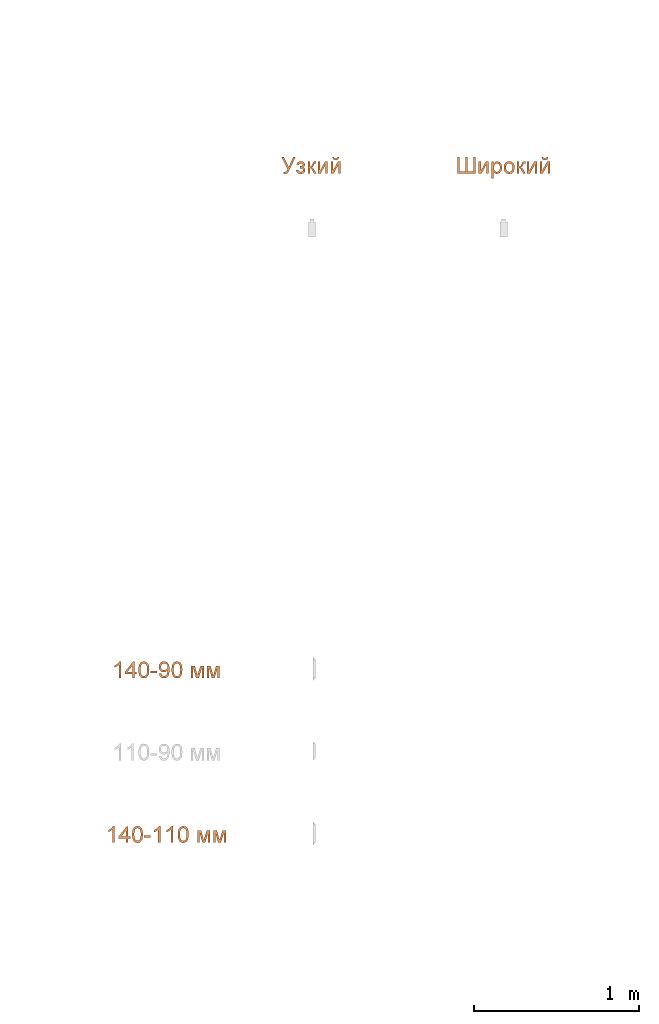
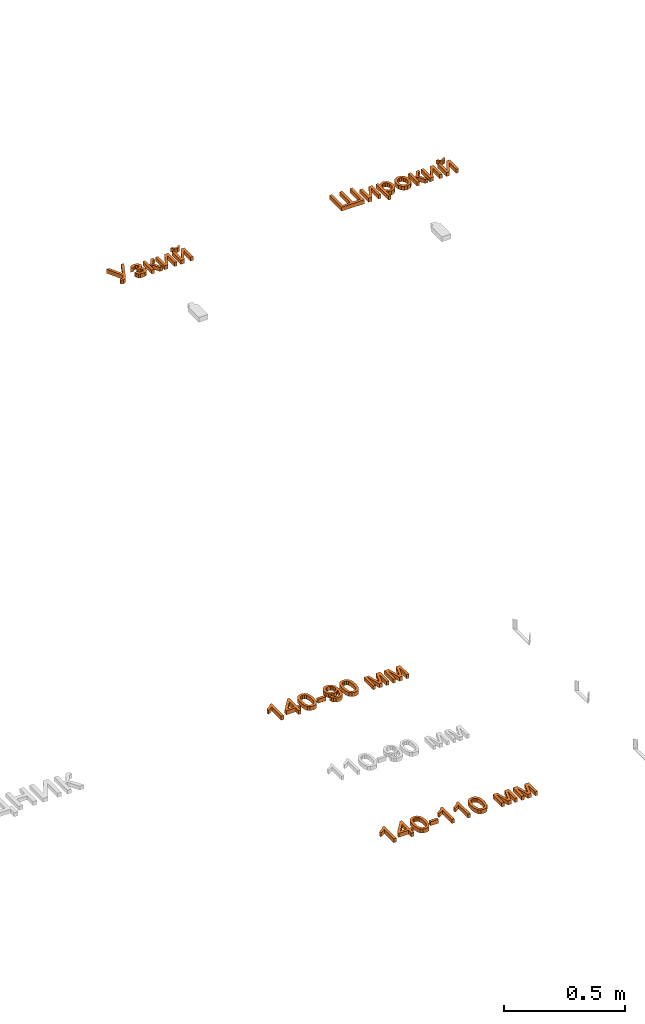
# One storey, part 35 of 87: 4 proxies.
"""IFC2X3 building model written with IfcOpenShell, lengths in millimetres."""

from ifc_helpers import new_model, entity, si_unit, converted_unit, derived_unit, direction, frame, frame_2d, origin, place, context, subcontext, project, spatial, polyline, rectangle, outline, extrude, element, save


model = new_model("IFC2X3")

# Units and contexts
model_context = context("Model", 3, precision=0.01, world=origin(), true_north=direction((6.12303176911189e-17, 1.0)))
body_context = subcontext(model_context, "Body", "Model", "MODEL_VIEW")
ifc_project = project(units=[si_unit("LENGTHUNIT", "METRE", prefix="MILLI"), si_unit("AREAUNIT", "SQUARE_METRE"), si_unit("VOLUMEUNIT", "CUBIC_METRE"), converted_unit("PLANEANGLEUNIT", "DEGREE", entity("IfcRatioMeasure", 0.0174532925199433), si_unit("PLANEANGLEUNIT", "RADIAN"), dimensions=[0, 0, 0, 0, 0, 0, 0]), si_unit("MASSUNIT", "GRAM", prefix="KILO"), derived_unit("MASSDENSITYUNIT", [(si_unit("MASSUNIT", "GRAM", prefix="KILO"), 1), (si_unit("LENGTHUNIT", "METRE"), -3)]), si_unit("TIMEUNIT", "SECOND"), si_unit("FREQUENCYUNIT", "HERTZ"), si_unit("THERMODYNAMICTEMPERATUREUNIT", "DEGREE_CELSIUS"), derived_unit("THERMALTRANSMITTANCEUNIT", [(si_unit("MASSUNIT", "GRAM", prefix="KILO"), 1), (si_unit("THERMODYNAMICTEMPERATUREUNIT", "KELVIN"), -1), (si_unit("TIMEUNIT", "SECOND"), -3)]), derived_unit("VOLUMETRICFLOWRATEUNIT", [(si_unit("LENGTHUNIT", "METRE"), 3), (si_unit("TIMEUNIT", "SECOND"), -1)]), si_unit("ELECTRICCURRENTUNIT", "AMPERE"), si_unit("ELECTRICVOLTAGEUNIT", "VOLT"), si_unit("POWERUNIT", "WATT"), si_unit("FORCEUNIT", "NEWTON", prefix="KILO"), si_unit("ILLUMINANCEUNIT", "LUX"), si_unit("LUMINOUSFLUXUNIT", "LUMEN"), si_unit("LUMINOUSINTENSITYUNIT", "CANDELA"), derived_unit("USERDEFINED", [(si_unit("MASSUNIT", "GRAM", prefix="KILO"), -1), (si_unit("LENGTHUNIT", "METRE"), -2), (si_unit("TIMEUNIT", "SECOND"), 3), (si_unit("LUMINOUSFLUXUNIT", "LUMEN"), 1)]), derived_unit("LINEARVELOCITYUNIT", [(si_unit("LENGTHUNIT", "METRE"), 1), (si_unit("TIMEUNIT", "SECOND"), -1)]), si_unit("PRESSUREUNIT", "PASCAL"), derived_unit("USERDEFINED", [(si_unit("LENGTHUNIT", "METRE"), -2), (si_unit("MASSUNIT", "GRAM", prefix="KILO"), 1), (si_unit("TIMEUNIT", "SECOND"), -2)])], contexts=[model_context])

# Site, building, storey
site_placement = place(None, origin())
site = spatial("IfcSite", under=ifc_project, at=site_placement, Name="Default", CompositionType="ELEMENT")
building_placement = place(site_placement, origin())
building = spatial("IfcBuilding", under=site, at=building_placement, Name="Наименование здания", CompositionType="ELEMENT")
storey_placement = place(building_placement, origin())
storey = spatial("IfcBuildingStorey", under=building, at=storey_placement, Name="Этаж 01", CompositionType="ELEMENT", Elevation=0.0)

# Proxies
proxy_1_placement = place(storey_placement, origin())
element("IfcBuildingElementProxy", 1, at=proxy_1_placement, inside=storey, Name="Текст модели:100 мм Arial", ObjectType="Текст модели:100 мм Arial", context=body_context, shape_type="SweptSolid", body=[
    extrude(outline(polyline([(-68.5922278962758, 3.17852468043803), (-62.3223065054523, -9.23369658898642), (4.33148979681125, -9.22336459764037), (-36.5901952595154, -60.1741531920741), (-30.3755641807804, -72.4769192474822), (22.283466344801, -3.15007051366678), (34.7684834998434, 14.7793615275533), (33.5878628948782, 27.179566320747), (27.0890693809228, 36.5636210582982), (17.2818822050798, 31.6096090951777), (21.7382813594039, 22.7875188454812), (22.5490631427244, 14.9814779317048), (14.2506952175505, 3.17852468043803), (-68.5922278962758, 3.17852468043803)])), frame((12799.6303348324, -26104.271931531, 0.0), z_axis=(0.0, 0.0, -1.0), x_axis=(0.450880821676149, -0.892584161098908, 0.0)), (0.0, 0.0, -1.0), 20.0),
    extrude(outline(polyline([(-8.26137559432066, 2.83660129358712), (-7.88483383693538, -9.7147906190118), (2.03370750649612, -9.90796438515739), (7.11297634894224, -12.3687236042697), (9.62999620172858, -17.7525843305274), (6.67000046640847, -24.1840695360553), (-1.385566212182, -26.793508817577), (-9.85236257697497, -24.6920086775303), (-15.4941151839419, -17.7947491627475), (-29.5673633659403, -19.7872826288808), (-19.6703947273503, -34.8011497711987), (-2.28377519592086, -39.3831432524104), (8.16179590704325, -37.5147754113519), (15.9646493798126, -32.6156876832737), (20.7610522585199, -25.6475814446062), (22.1872715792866, -17.5721580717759), (19.5816320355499, -9.84772015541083), (12.2854000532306, -4.03062803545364), (20.3489339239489, 4.03842158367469), (22.7692443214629, 15.3732845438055), (20.7423600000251, 24.5596715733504), (15.2735873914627, 31.722820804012), (6.73732323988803, 36.2421492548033), (-4.49203571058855, 37.4970739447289), (-15.3844130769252, 35.6981126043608), (-23.62065115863, 31.0344554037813), (-29.2007499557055, 23.506102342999), (-32.1247094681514, 13.1130534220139), (-17.9573258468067, 11.9677389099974), (-12.5724845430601, 21.4040812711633), (-2.91428652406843, 24.9817182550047), (6.34861619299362, 22.1066650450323), (10.2428571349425, 14.1632519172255), (8.17310319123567, 7.50084071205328), (3.44966140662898, 3.82588141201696), (-5.80772556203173, 2.83660129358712), (-8.26137559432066, 2.83660129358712)])), frame((12886.2674486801, -26108.8917590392, 0.0), z_axis=(0.0, 0.0, -1.0), x_axis=(0.999550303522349, 0.029986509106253, 0.0)), (0.0, 0.0, -1.0), 20.0),
    extrude(outline(polyline([(-30.3295712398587, -29.5353037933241), (43.4430315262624, -29.5353037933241), (43.4430315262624, -16.9782650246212), (8.91117491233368, -16.9782650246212), (11.2288314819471, -10.2337617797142), (20.8060260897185, -3.61188586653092), (43.4430315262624, 9.55828956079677), (43.4430315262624, 23.8321109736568), (20.3155167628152, 10.3921554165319), (10.0209522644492, 2.61758258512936), (5.13425309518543, -5.3041430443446), (0.75645735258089, 1.79597946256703), (-8.18307513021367, 6.86048826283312), (-16.4481572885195, 11.1769703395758), (-17.7725324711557, 17.3083369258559), (-17.6989560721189, 20.6928512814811), (-30.3295712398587, 20.6928512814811), (-30.3295712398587, 18.2893555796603), (-29.3730780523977, 9.1045684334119), (-25.6819953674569, 4.05232236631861), (-14.3389671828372, -1.67437402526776), (-1.1933172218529, -8.56603006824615), (1.06302568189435, -16.9782650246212), (-30.3295712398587, -16.9782650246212), (-30.3295712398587, -29.5353037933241)])), frame((12954.7190471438, -26101.4940097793, 0.0), z_axis=(0.0, 0.0, 1.0), x_axis=(0.0, -1.0, 0.0)), (0.0, 0.0, 1.0), 20.0),
    extrude(outline(polyline([(-36.9206370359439, -29.8425874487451), (36.8519657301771, -29.8425874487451), (36.8519657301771, -13.4105249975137), (-19.0660975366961, 17.2463079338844), (36.8519657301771, 17.2463079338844), (36.8519657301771, 29.8033467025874), (-36.9206370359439, 29.8033467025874), (-36.9206370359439, 13.5674879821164), (19.3407827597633, -17.2855486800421), (-36.9206370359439, -17.2855486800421), (-36.9206370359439, -29.8425874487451)])), frame((13016.2418947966, -26108.0850755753, 0.0), z_axis=(0.0, 0.0, 1.0), x_axis=(0.0, -1.0, 0.0)), (0.0, 0.0, 1.0), 20.0),
    extrude(outline(polyline([(-11.1429830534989, -6.65049913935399), (-15.3141401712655, -15.0941956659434), (-0.0922190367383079, -15.8161107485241), (10.2631635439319, -5.84547547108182), (12.416217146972, 9.42172447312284), (2.76087400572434, 21.4951559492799), (-1.41028311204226, 13.0514594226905), (3.3692997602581, 6.7512741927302), (2.31913688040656, -0.662833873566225), (-3.16906596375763, -6.65049913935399), (-11.1429830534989, -6.65049913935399)])), frame((13094.7932846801, -26051.5256713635, 0.0), z_axis=(0.0, 0.0, -1.0), x_axis=(-0.442902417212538, -0.896569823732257, 0.0)), (0.0, 0.0, -1.0), 20.0),
    extrude(outline(polyline([(-36.9206370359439, -29.8425874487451), (36.8519657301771, -29.8425874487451), (36.8519657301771, -13.4105249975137), (-19.0660975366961, 17.2463079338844), (36.8519657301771, 17.2463079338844), (36.8519657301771, 29.8033467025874), (-36.9206370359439, 29.8033467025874), (-36.9206370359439, 13.5674879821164), (19.3407827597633, -17.2855486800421), (-36.9206370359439, -17.2855486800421), (-36.9206370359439, -29.8425874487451)])), frame((13094.723387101, -26108.0850755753, 0.0), z_axis=(0.0, 0.0, 1.0), x_axis=(0.0, -1.0, 0.0)), (0.0, 0.0, 1.0), 20.0),
])
proxy_2_placement = place(storey_placement, origin())
element("IfcBuildingElementProxy", 2, at=proxy_2_placement, inside=storey, Name="Текст модели:100 мм Arial", ObjectType="Текст модели:100 мм Arial", context=body_context, shape_type="SweptSolid", body=[
    extrude(outline(polyline([(-46.0424754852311, -54.9370446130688), (54.4138346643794, -54.9370446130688), (54.4138346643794, 54.9370446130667), (-46.0424754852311, 54.9370446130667), (-46.0424754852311, 42.3800058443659), (41.8567958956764, 42.3800058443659), (41.8567958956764, 6.2785193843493), (-46.0424754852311, 6.2785193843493), (-46.0424754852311, -6.27851938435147), (41.8567958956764, -6.27851938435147), (41.8567958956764, -42.3800058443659), (-46.0424754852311, -42.3800058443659), (-46.0424754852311, -54.9370446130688)])), frame((13889.521065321, -26090.5232066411, 0.0), z_axis=(0.0, 0.0, 1.0), x_axis=(0.0, -1.0, 0.0)), (0.0, 0.0, 1.0), 20.0),
    extrude(outline(polyline([(-36.9206370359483, -29.8425874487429), (36.8519657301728, -29.8425874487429), (36.8519657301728, -13.4105249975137), (-19.0660975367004, 17.2463079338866), (36.8519657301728, 17.2463079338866), (36.8519657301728, 29.8033467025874), (-36.9206370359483, 29.8033467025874), (-36.9206370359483, 13.5674879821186), (19.340782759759, -17.2855486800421), (-36.9206370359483, -17.2855486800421), (-36.9206370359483, -29.8425874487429)])), frame((13993.1362555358, -26108.0850755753, 0.0), z_axis=(0.0, 0.0, 1.0), x_axis=(0.0, -1.0, 0.0)), (0.0, 0.0, 1.0), 20.0),
    extrude(outline(polyline([(-28.8983569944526, -61.2335493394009), (-16.3413182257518, -61.2335493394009), (-16.3413182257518, -23.1700255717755), (-8.38280439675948, -31.3247431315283), (2.54329085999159, -34.5498419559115), (18.4235303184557, -29.7305878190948), (29.9259740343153, -15.8736993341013), (33.8868368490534, 4.47017499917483), (30.3796951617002, 23.8207679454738), (19.9808974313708, 37.5059781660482), (4.06386977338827, 42.3620205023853), (-7.65930313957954, 38.8916670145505), (-16.3413182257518, 28.4806065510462), (-16.3413182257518, 40.7923906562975), (-28.8983569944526, 40.7923906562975), (-28.8983569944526, -61.2335493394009)]), holes=[polyline([(-16.3413182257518, 3.31747808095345), (-14.8912500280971, 14.7064915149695), (-10.5410454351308, 23.023690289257), (-4.30851130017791, 28.1096588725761), (2.78854552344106, 29.8049817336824), (9.85801119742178, 28.2108264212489), (15.8606190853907, 23.4283604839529), (19.9625033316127, 15.4453211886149), (21.3297980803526, 4.24944580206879), (19.928780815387, -7.4308075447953), (15.7257290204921, -15.5916564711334), (9.56063991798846, -20.3925165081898), (2.27351073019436, -21.9928031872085), (-4.89712249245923, -20.4476988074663), (-10.9089274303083, -15.8123856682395), (-14.9832205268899, -7.93971097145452), (-16.3413182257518, 3.31747808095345)])]), frame((14070.6735173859, -26111.9568291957, 0.0)), (0.0, 0.0, 1.0), 20.0),
    extrude(outline(polyline([(-2.34029740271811, -31.6984909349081), (14.2731811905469, -31.6984909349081), (27.1869525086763, -26.5873672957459), (35.990959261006, -17.1811275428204), (40.275144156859, -4.29577920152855), (38.1491713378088, 13.1690451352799), (27.2514955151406, 26.6485362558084), (5.67797919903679, 33.7446283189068), (-10.128054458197, 33.6081083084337), (-22.8059382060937, 28.390056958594), (-31.6389568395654, 18.975453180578), (-35.9103951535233, 6.24927588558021), (-35.5406401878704, -5.97109031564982), (-30.8535887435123, -16.7835237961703), (-19.5870121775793, -26.5692340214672), (-2.34029740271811, -31.6984909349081)]), holes=[polyline([(-0.642949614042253, -19.2566729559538), (-11.69480974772, -16.2599663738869), (-19.0989004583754, -10.8341828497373), (-22.9822632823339, -3.67356758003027), (-23.4719397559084, 4.52763423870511), (-20.7783225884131, 12.2046648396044), (-15.0781786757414, 18.0357050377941), (-6.5660093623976, 21.2863283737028), (4.56368400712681, 21.2221083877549), (15.8675929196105, 18.1905150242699), (23.3961896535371, 12.7474982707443), (27.3267847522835, 5.59272509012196), (27.8366887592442, -2.57413755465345), (25.1317228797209, -10.3331599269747), (19.4311586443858, -16.1672368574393), (10.8134498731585, -19.3753979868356), (-0.642949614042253, -19.2566729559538)])]), frame((14147.267775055, -26106.0228926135, 0.0), z_axis=(0.0, 0.0, 1.0), x_axis=(0.13710570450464, -0.99055642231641, 0.0)), (0.0, 0.0, 1.0), 20.0),
    extrude(outline(polyline([(-30.3295712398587, -29.5353037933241), (43.4430315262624, -29.5353037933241), (43.4430315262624, -16.9782650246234), (8.91117491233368, -16.9782650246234), (11.2288314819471, -10.2337617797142), (20.8060260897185, -3.61188586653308), (43.4430315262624, 9.55828956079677), (43.4430315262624, 23.8321109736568), (20.3155167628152, 10.3921554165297), (10.0209522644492, 2.61758258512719), (5.13425309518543, -5.30414304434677), (0.75645735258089, 1.79597946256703), (-8.18307513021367, 6.86048826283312), (-16.4481572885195, 11.1769703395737), (-17.7725324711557, 17.3083369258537), (-17.6989560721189, 20.6928512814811), (-30.3295712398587, 20.6928512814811), (-30.3295712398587, 18.2893555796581), (-29.3730780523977, 9.1045684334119), (-25.6819953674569, 4.05232236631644), (-14.3389671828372, -1.67437402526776), (-1.1933172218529, -8.56603006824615), (1.06302568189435, -16.9782650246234), (-30.3295712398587, -16.9782650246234), (-30.3295712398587, -29.5353037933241)])), frame((14225.1341891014, -26101.4940097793, 0.0), z_axis=(0.0, 0.0, 1.0), x_axis=(0.0, -1.0, 0.0)), (0.0, 0.0, 1.0), 20.0),
    extrude(outline(polyline([(-36.9206370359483, -29.8425874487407), (36.8519657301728, -29.8425874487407), (36.8519657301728, -13.4105249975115), (-19.0660975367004, 17.2463079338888), (36.8519657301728, 17.2463079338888), (36.8519657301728, 29.8033467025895), (-36.9206370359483, 29.8033467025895), (-36.9206370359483, 13.5674879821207), (19.340782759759, -17.28554868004), (-36.9206370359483, -17.28554868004), (-36.9206370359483, -29.8425874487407)])), frame((14286.6570367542, -26108.0850755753, 0.0), z_axis=(0.0, 0.0, 1.0), x_axis=(0.0, -1.0, 0.0)), (0.0, 0.0, 1.0), 20.0),
    extrude(outline(polyline([(-11.1429830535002, -6.65049913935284), (-15.3141401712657, -15.0941956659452), (-0.0922190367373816, -15.8161107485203), (10.2631635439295, -5.84547547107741), (12.4162171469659, 9.42172447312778), (2.76087400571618, 21.4951559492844), (-1.41028311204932, 13.0514594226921), (3.36929976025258, 6.75127419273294), (2.31913688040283, -0.662833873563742), (-3.1690659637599, -6.65049913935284), (-11.1429830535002, -6.65049913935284)])), frame((14365.2084266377, -26051.5256713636, 0.0), z_axis=(0.0, 0.0, -1.0), x_axis=(-0.442902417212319, -0.896569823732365, 0.0)), (0.0, 0.0, -1.0), 20.0),
    extrude(outline(polyline([(-36.9206370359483, -29.8425874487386), (36.8519657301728, -29.8425874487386), (36.8519657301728, -13.4105249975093), (-19.0660975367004, 17.2463079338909), (36.8519657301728, 17.2463079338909), (36.8519657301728, 29.8033467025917), (-36.9206370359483, 29.8033467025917), (-36.9206370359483, 13.5674879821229), (19.340782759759, -17.2855486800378), (-36.9206370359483, -17.2855486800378), (-36.9206370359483, -29.8425874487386)])), frame((14365.1385290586, -26108.0850755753, 0.0), z_axis=(0.0, 0.0, 1.0), x_axis=(0.0, -1.0, 0.0)), (0.0, 0.0, 1.0), 20.0),
])
proxy_3_placement = place(storey_placement, origin())
element("IfcBuildingElementProxy", 3, at=proxy_3_placement, inside=storey, Name="Текст модели:100 мм Arial", ObjectType="Текст модели:100 мм Arial", context=body_context, shape_type="SweptSolid", body=[
    extrude(outline(polyline([(-63.8793021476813, -16.918484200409), (36.5770080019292, -16.918484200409), (36.5770080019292, -8.825080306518), (23.2106288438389, 2.34626961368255), (11.4629304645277, 20.7526321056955), (-0.407395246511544, 20.7526321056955), (5.93243780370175, 7.53340574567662), (14.4059864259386, -4.36144543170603), (-63.8793021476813, -4.36144543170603), (-63.8793021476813, -16.918484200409)])), frame((11773.3178787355, -29142.5695836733, 0.0), z_axis=(0.0, 0.0, 1.0), x_axis=(0.0, 1.0, 0.0)), (0.0, 0.0, 1.0), 20.0),
    extrude(outline(polyline([(-1.14154897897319, -36.3868737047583), (11.4154897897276, -36.3868737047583), (11.4154897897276, -12.8424260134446), (23.9725285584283, -12.8424260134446), (23.9725285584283, -0.285387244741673), (11.4154897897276, -0.285387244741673), (11.4154897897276, 62.4998065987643), (1.99771071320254, 62.4998065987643), (-46.6608145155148, -0.285387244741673), (-46.6608145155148, -12.8424260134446), (-1.14154897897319, -12.8424260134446), (-1.14154897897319, -36.3868737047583)]), holes=[polyline([(-1.14154897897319, -0.285387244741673), (-31.20977071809, -0.285387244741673), (-1.14154897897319, 38.5139005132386), (-1.14154897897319, -0.285387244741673)])]), frame((11862.0112549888, -29170.0620121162, 0.0)), (0.0, 0.0, 1.0), 20.0),
    extrude(outline(polyline([(-7.02884310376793, -33.3490673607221), (17.5323805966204, -33.3490673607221), (35.1984171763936, -27.6137612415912), (43.343984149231, -18.4876517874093), (47.0516941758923, -5.75150665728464), (46.7162020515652, 4.48638208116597), (43.446577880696, 13.0955287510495), (27.9444305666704, 25.6659118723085), (-0.314338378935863, 32.2325535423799), (-24.0296505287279, 32.3678288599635), (-39.4143020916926, 28.026088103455), (-49.7293680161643, 18.9002174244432), (-54.4436715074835, 4.63998875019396), (-50.8676582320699, -14.1301059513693), (-35.4058547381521, -26.7333390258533), (-7.02884310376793, -33.3490673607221)]), holes=[polyline([(-5.77428774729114, -20.8548320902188), (-25.0157644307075, -17.3562860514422), (-36.7257089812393, -11.57179224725), (-41.0962588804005, -4.77599682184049), (-41.9669219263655, 3.21464792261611), (-39.2244253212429, 11.2791292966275), (-32.8654063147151, 17.2229259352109), (-20.9698370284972, 20.2947501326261), (-1.61768958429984, 19.7433141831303), (17.8514140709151, 16.270770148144), (28.7803640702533, 10.7141596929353), (33.5546988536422, 3.61815959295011), (34.5599568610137, -4.47255337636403), (31.9421230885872, -12.1923199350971), (25.8471825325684, -18.1754808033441), (14.025067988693, -21.4027476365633), (-5.77428774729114, -20.8548320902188)])]), frame((11930.8627300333, -29160.6257088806, 0.0), z_axis=(0.0, 0.0, 1.0), x_axis=(0.101851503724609, -0.994799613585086, 0.0)), (0.0, 0.0, 1.0), 20.0),
    extrude(rectangle(XDim=39.2407461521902, YDim=12.5570387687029, at=frame_2d((1.08357767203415e-12, 0.0), x_axis=(1.0, 0.0))), frame((11990.3641683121, -29170.3473993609, 0.0)), (0.0, 0.0, 1.0), 20.0),
    extrude(outline(polyline([(5.58296908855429, -31.7859506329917), (17.2387167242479, -31.7859506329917), (26.9216142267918, -28.1739915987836), (34.2072820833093, -21.2554963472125), (38.6713407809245, -11.335887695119), (39.9245387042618, -0.903731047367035), (37.9450282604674, 8.92661895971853), (32.7793953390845, 17.8190246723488), (24.4742258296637, 25.4373484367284), (-3.90517077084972, 37.365916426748), (-32.1440557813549, 40.561914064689), (-49.7769073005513, 32.5319597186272), (-59.468326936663, 16.6032994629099), (-60.4499889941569, 4.02951589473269), (-56.4016296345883, -7.53444362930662), (-47.8362588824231, -16.8026666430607), (-35.2668867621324, -22.4892406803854), (-21.9841856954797, -23.8222776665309), (-10.3310965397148, -20.2832716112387), (-1.40106329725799, -12.8047998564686), (3.71247002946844, -2.31943974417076), (3.739020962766, 11.9281903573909), (-2.85997612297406, 24.0883984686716), (-0.471643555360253, 23.5260231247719), (13.1334133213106, 18.0099957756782), (22.6158894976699, 11.2224941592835), (27.00798216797, 2.91452909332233), (26.6924060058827, -7.52395807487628), (20.3410079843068, -16.8945474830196), (7.30988926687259, -19.2495752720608), (5.58296908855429, -31.7859506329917)]), holes=[polyline([(-21.7672208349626, 29.1433710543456), (-13.9803799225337, 25.5922442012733), (-8.91107638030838, 19.8291378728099), (-7.47464573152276, 4.45415101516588), (-10.9717321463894, -3.43916536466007), (-16.5473789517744, -8.7331221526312), (-23.57581367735, -11.1761402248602), (-31.4312638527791, -10.5166404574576), (-39.4119601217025, -6.85973803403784), (-44.9206699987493, -0.817312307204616), (-47.5297596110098, 6.83624740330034), (-46.8115950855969, 15.3265517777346), (-43.3781823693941, 22.7799280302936), (-37.7148363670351, 27.7965691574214), (-30.3387761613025, 30.0324064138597), (-21.7672208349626, 29.1433710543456)])]), frame((12051.807001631, -29167.7314518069, 0.0), z_axis=(0.0, 0.0, 1.0), x_axis=(0.258284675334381, -0.966068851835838, 0.0)), (0.0, 0.0, 1.0), 20.0),
    extrude(outline(polyline([(-7.02884310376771, -33.3490673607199), (17.5323805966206, -33.34906736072), (35.1984171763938, -27.613761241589), (43.3439841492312, -18.4876517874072), (47.0516941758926, -5.75150665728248), (46.7162020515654, 4.48638208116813), (43.4465778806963, 13.0955287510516), (27.9444305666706, 25.6659118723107), (-0.314338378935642, 32.232553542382), (-24.0296505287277, 32.3678288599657), (-39.4143020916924, 28.0260881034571), (-49.7293680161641, 18.9002174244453), (-54.4436715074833, 4.63998875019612), (-50.8676582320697, -14.1301059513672), (-35.4058547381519, -26.7333390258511), (-7.02884310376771, -33.3490673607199)]), holes=[polyline([(-5.77428774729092, -20.8548320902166), (-25.0157644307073, -17.35628605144), (-36.7257089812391, -11.5717922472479), (-41.0962588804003, -4.77599682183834), (-41.9669219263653, 3.21464792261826), (-39.2244253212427, 11.2791292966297), (-32.8654063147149, 17.2229259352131), (-20.9698370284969, 20.2947501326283), (-1.61768958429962, 19.7433141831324), (17.8514140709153, 16.2707701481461), (28.7803640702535, 10.7141596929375), (33.5546988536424, 3.61815959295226), (34.5599568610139, -4.47255337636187), (31.9421230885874, -12.1923199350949), (25.8471825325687, -18.1754808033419), (14.0250679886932, -21.4027476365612), (-5.77428774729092, -20.8548320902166)])]), frame((12131.7753503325, -29160.6257088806, 0.0), z_axis=(0.0, 0.0, 1.0), x_axis=(0.101851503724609, -0.994799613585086, 0.0)), (0.0, 0.0, 1.0), 20.0),
    extrude(outline(polyline([(-40.583987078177, -38.4502715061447), (33.1886156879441, -38.4502715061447), (33.1886156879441, -25.893232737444), (-29.0570178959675, -25.893232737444), (33.1886156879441, -8.6273044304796), (33.1886156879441, 7.85380895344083), (-26.2120637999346, 25.9045521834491), (33.1886156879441, 25.9045521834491), (33.1886156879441, 38.4615909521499), (-40.583987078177, 38.4615909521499), (-40.583987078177, 17.7620973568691), (18.4733358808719, -0.190544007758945), (-40.583987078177, -16.8433356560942), (-40.583987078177, -38.4502715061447)])), frame((12255.6259525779, -29173.260270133, 0.0), z_axis=(0.0, 0.0, 1.0), x_axis=(0.0, -1.0, 0.0)), (0.0, 0.0, 1.0), 20.0),
    extrude(outline(polyline([(-40.583987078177, -38.4502715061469), (33.1886156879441, -38.4502715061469), (33.1886156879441, -25.8932327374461), (-29.0570178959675, -25.8932327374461), (33.1886156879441, -8.62730443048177), (33.1886156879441, 7.85380895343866), (-26.2120637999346, 25.9045521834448), (33.1886156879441, 25.9045521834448), (33.1886156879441, 38.4615909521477), (-40.583987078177, 38.4615909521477), (-40.583987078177, 17.762097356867), (18.4733358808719, -0.19054400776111), (-40.583987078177, -16.8433356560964), (-40.583987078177, -38.4502715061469)])), frame((12351.3733731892, -29173.260270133, 0.0), z_axis=(0.0, 0.0, 1.0), x_axis=(0.0, -1.0, 0.0)), (0.0, 0.0, 1.0), 20.0),
])
proxy_4_placement = place(storey_placement, origin())
element("IfcBuildingElementProxy", 4, at=proxy_4_placement, inside=storey, Name="Текст модели:100 мм Arial", ObjectType="Текст модели:100 мм Arial", context=body_context, shape_type="SweptSolid", body=[
    extrude(outline(polyline([(-63.8793021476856, -16.9184842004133), (36.5770080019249, -16.9184842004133), (36.5770080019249, -8.82508030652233), (23.2106288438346, 2.34626961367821), (11.4629304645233, 20.7526321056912), (-0.407395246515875, 20.7526321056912), (5.93243780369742, 7.53340574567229), (14.4059864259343, -4.36144543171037), (-63.8793021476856, -4.36144543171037), (-63.8793021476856, -16.9184842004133)])), frame((11734.8619475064, -30142.5695836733, 0.0), z_axis=(0.0, 0.0, 1.0), x_axis=(0.0, 1.0, 0.0)), (0.0, 0.0, 1.0), 20.0),
    extrude(outline(polyline([(-1.14154897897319, -36.3868737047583), (11.4154897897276, -36.3868737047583), (11.4154897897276, -12.8424260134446), (23.9725285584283, -12.8424260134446), (23.9725285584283, -0.285387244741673), (11.4154897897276, -0.285387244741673), (11.4154897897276, 62.4998065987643), (1.99771071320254, 62.4998065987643), (-46.6608145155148, -0.285387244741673), (-46.6608145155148, -12.8424260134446), (-1.14154897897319, -12.8424260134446), (-1.14154897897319, -36.3868737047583)]), holes=[polyline([(-1.14154897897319, -0.285387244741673), (-31.20977071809, -0.285387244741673), (-1.14154897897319, 38.5139005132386), (-1.14154897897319, -0.285387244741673)])]), frame((11823.5553237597, -30170.0620121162, 0.0)), (0.0, 0.0, 1.0), 20.0),
    extrude(outline(polyline([(-7.02884310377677, -33.3490673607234), (17.5323805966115, -33.3490673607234), (35.1984171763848, -27.6137612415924), (43.3439841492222, -18.4876517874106), (47.0516941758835, -5.75150665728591), (46.7162020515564, 4.4863820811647), (43.4465778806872, 13.0955287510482), (27.9444305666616, 25.6659118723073), (-0.314338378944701, 32.2325535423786), (-24.0296505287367, 32.3678288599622), (-39.4143020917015, 28.0260881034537), (-49.7293680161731, 18.9002174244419), (-54.4436715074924, 4.63998875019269), (-50.8676582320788, -14.1301059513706), (-35.4058547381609, -26.7333390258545), (-7.02884310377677, -33.3490673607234)]), holes=[polyline([(-5.77428774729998, -20.8548320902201), (-25.0157644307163, -17.3562860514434), (-36.7257089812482, -11.5717922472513), (-41.0962588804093, -4.77599682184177), (-41.9669219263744, 3.21464792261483), (-39.2244253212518, 11.2791292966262), (-32.865406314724, 17.2229259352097), (-20.969837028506, 20.2947501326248), (-1.61768958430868, 19.743314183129), (17.8514140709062, 16.2707701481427), (28.7803640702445, 10.714159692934), (33.5546988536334, 3.61815959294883), (34.5599568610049, -4.4725533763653), (31.9421230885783, -12.1923199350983), (25.8471825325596, -18.1754808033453), (14.0250679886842, -21.4027476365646), (-5.77428774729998, -20.8548320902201)])]), frame((11892.4067988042, -30160.6257088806, 0.0), z_axis=(0.0, 0.0, 1.0), x_axis=(0.101851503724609, -0.994799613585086, 0.0)), (0.0, 0.0, 1.0), 20.0),
    extrude(rectangle(XDim=39.2407461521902, YDim=12.5570387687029, at=frame_2d((1.08357767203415e-12, 0.0), x_axis=(1.0, 0.0))), frame((11951.9082370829, -30170.3473993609, 0.0)), (0.0, 0.0, 1.0), 20.0),
    extrude(outline(polyline([(-63.8793021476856, -16.9184842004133), (36.5770080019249, -16.9184842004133), (36.5770080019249, -8.82508030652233), (23.2106288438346, 2.34626961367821), (11.4629304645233, 20.7526321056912), (-0.407395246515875, 20.7526321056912), (5.93243780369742, 7.53340574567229), (14.4059864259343, -4.36144543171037), (-63.8793021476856, -4.36144543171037), (-63.8793021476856, -16.9184842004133)])), frame((12012.6864302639, -30142.5695836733, 0.0), z_axis=(0.0, 0.0, 1.0), x_axis=(0.0, 1.0, 0.0)), (0.0, 0.0, 1.0), 20.0),
    extrude(outline(polyline([(-63.8793021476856, -16.9184842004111), (36.5770080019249, -16.9184842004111), (36.5770080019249, -8.82508030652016), (23.2106288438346, 2.34626961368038), (11.4629304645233, 20.7526321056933), (-0.407395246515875, 20.7526321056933), (5.93243780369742, 7.53340574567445), (14.4059864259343, -4.3614454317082), (-63.8793021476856, -4.3614454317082), (-63.8793021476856, -16.9184842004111)])), frame((12089.5982927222, -30142.5695836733, 0.0), z_axis=(0.0, 0.0, 1.0), x_axis=(0.0, 1.0, 0.0)), (0.0, 0.0, 1.0), 20.0),
    extrude(outline(polyline([(-7.02884310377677, -33.3490673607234), (17.5323805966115, -33.3490673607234), (35.1984171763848, -27.6137612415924), (43.3439841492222, -18.4876517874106), (47.0516941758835, -5.75150665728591), (46.7162020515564, 4.4863820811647), (43.4465778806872, 13.0955287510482), (27.9444305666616, 25.6659118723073), (-0.314338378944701, 32.2325535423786), (-24.0296505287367, 32.3678288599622), (-39.4143020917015, 28.0260881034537), (-49.7293680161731, 18.9002174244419), (-54.4436715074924, 4.63998875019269), (-50.8676582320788, -14.1301059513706), (-35.4058547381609, -26.7333390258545), (-7.02884310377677, -33.3490673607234)]), holes=[polyline([(-5.77428774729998, -20.8548320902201), (-25.0157644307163, -17.3562860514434), (-36.7257089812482, -11.5717922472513), (-41.0962588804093, -4.77599682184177), (-41.9669219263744, 3.21464792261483), (-39.2244253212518, 11.2791292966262), (-32.865406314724, 17.2229259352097), (-20.969837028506, 20.2947501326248), (-1.61768958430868, 19.743314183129), (17.8514140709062, 16.2707701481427), (28.7803640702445, 10.714159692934), (33.5546988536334, 3.61815959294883), (34.5599568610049, -4.4725533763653), (31.9421230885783, -12.1923199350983), (25.8471825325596, -18.1754808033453), (14.0250679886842, -21.4027476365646), (-5.77428774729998, -20.8548320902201)])]), frame((12170.2312815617, -30160.6257088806, 0.0), z_axis=(0.0, 0.0, 1.0), x_axis=(0.101851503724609, -0.994799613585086, 0.0)), (0.0, 0.0, 1.0), 20.0),
    extrude(outline(polyline([(-40.5839870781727, -38.4502715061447), (33.1886156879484, -38.4502715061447), (33.1886156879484, -25.893232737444), (-29.0570178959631, -25.893232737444), (33.1886156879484, -8.6273044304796), (33.1886156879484, 7.85380895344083), (-26.2120637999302, 25.9045521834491), (33.1886156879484, 25.9045521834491), (33.1886156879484, 38.4615909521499), (-40.5839870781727, 38.4615909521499), (-40.5839870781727, 17.7620973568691), (18.4733358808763, -0.190544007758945), (-40.5839870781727, -16.8433356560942), (-40.5839870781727, -38.4502715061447)])), frame((12294.081883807, -30173.260270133, 0.0), z_axis=(0.0, 0.0, 1.0), x_axis=(0.0, -1.0, 0.0)), (0.0, 0.0, 1.0), 20.0),
    extrude(outline(polyline([(-40.5839870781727, -38.4502715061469), (33.1886156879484, -38.4502715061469), (33.1886156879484, -25.8932327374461), (-29.0570178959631, -25.8932327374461), (33.1886156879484, -8.62730443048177), (33.1886156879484, 7.85380895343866), (-26.2120637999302, 25.904552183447), (33.1886156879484, 25.904552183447), (33.1886156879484, 38.4615909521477), (-40.5839870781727, 38.4615909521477), (-40.5839870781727, 17.762097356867), (18.4733358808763, -0.19054400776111), (-40.5839870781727, -16.8433356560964), (-40.5839870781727, -38.4502715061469)])), frame((12389.8293044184, -30173.260270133, 0.0), z_axis=(0.0, 0.0, 1.0), x_axis=(0.0, -1.0, 0.0)), (0.0, 0.0, 1.0), 20.0),
])

save(model, "model.ifc")
